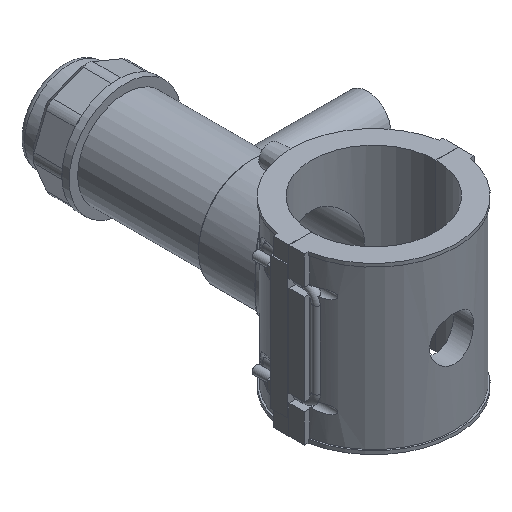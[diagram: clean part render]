
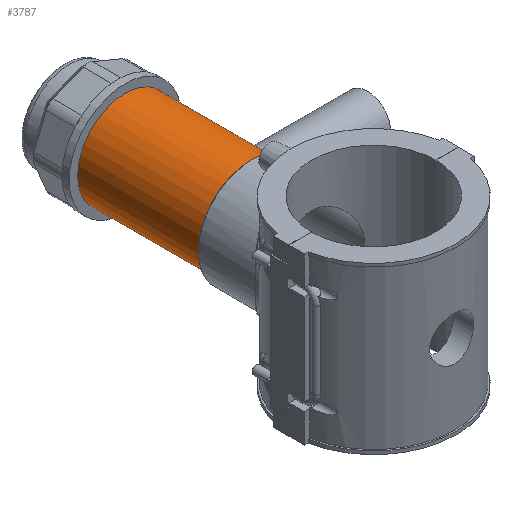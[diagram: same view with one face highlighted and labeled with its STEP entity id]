
A CAD part, isometric view. The second image highlights one B-rep face of the part: STEP entity #3787.
In plain terms, the highlighted cylindrical face has radius 33.928 mm (diameter 67.856 mm), a full revolution.
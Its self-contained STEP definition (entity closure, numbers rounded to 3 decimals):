
#53=FACE_BOUND('',#560,.T.);
#82=B_SPLINE_CURVE_WITH_KNOTS('',3,(#5603,#5604,#5605,#5606,#5607,#5608,
#5609,#5610,#5611,#5612,#5613,#5614,#5615,#5616,#5617,#5618),
 .UNSPECIFIED.,.F.,.F.,(4,2,2,2,2,2,2,4),(0.,0.32,0.64,
1.281,1.6,1.919,2.239,2.558),
 .UNSPECIFIED.);
#83=B_SPLINE_CURVE_WITH_KNOTS('',3,(#5619,#5620,#5621,#5622,#5623,#5624,
#5625,#5626,#5627,#5628,#5629,#5630,#5631,#5632,#5633,#5634,#5635,#5636,
#5637,#5638,#5639,#5640,#5641,#5642,#5643,#5644,#5645,#5646,#5647,#5648,
#5649,#5650,#5651,#5652,#5653,#5654,#5655,#5656,#5657,#5658,#5659,#5660,
#5661,#5662),.UNSPECIFIED.,.F.,.F.,(4,2,2,2,2,2,2,2,2,2,2,2,2,2,2,2,2,2,
2,2,2,4),(2.558,2.877,3.197,3.516,
3.835,4.475,4.796,5.116,5.436,
5.756,6.396,6.716,7.035,7.354,
7.674,7.993,8.312,8.632,8.951,
9.591,9.911,10.232),.UNSPECIFIED.);
#344=FACE_OUTER_BOUND('',#559,.T.);
#559=EDGE_LOOP('',(#2788,#2789,#2790,#2791,#2792,#2793));
#560=EDGE_LOOP('',(#2794,#2795));
#779=CIRCLE('',#4052,33.928);
#780=CIRCLE('',#4053,33.928);
#793=CIRCLE('',#4080,33.928);
#794=CIRCLE('',#4081,33.928);
#956=LINE('',#5912,#1297);
#1297=VECTOR('',#4630,33.928);
#1582=VERTEX_POINT('',#5600);
#1583=VERTEX_POINT('',#5602);
#1645=VERTEX_POINT('',#5853);
#1646=VERTEX_POINT('',#5854);
#1660=VERTEX_POINT('',#5908);
#1661=VERTEX_POINT('',#5909);
#1960=EDGE_CURVE('',#1583,#1582,#82,.T.);
#1961=EDGE_CURVE('',#1582,#1583,#83,.T.);
#2056=EDGE_CURVE('',#1645,#1646,#779,.T.);
#2057=EDGE_CURVE('',#1646,#1645,#780,.T.);
#2082=EDGE_CURVE('',#1660,#1661,#793,.T.);
#2083=EDGE_CURVE('',#1661,#1660,#794,.T.);
#2084=EDGE_CURVE('',#1661,#1646,#956,.T.);
#2788=ORIENTED_EDGE('',*,*,#2082,.F.);
#2789=ORIENTED_EDGE('',*,*,#2083,.F.);
#2790=ORIENTED_EDGE('',*,*,#2084,.T.);
#2791=ORIENTED_EDGE('',*,*,#2057,.T.);
#2792=ORIENTED_EDGE('',*,*,#2056,.T.);
#2793=ORIENTED_EDGE('',*,*,#2084,.F.);
#2794=ORIENTED_EDGE('',*,*,#1960,.T.);
#2795=ORIENTED_EDGE('',*,*,#1961,.T.);
#3691=CYLINDRICAL_SURFACE('',#4079,33.928);
#3787=ADVANCED_FACE('',(#344,#53),#3691,.T.);
#4052=AXIS2_PLACEMENT_3D('',#5855,#4558,#4559);
#4053=AXIS2_PLACEMENT_3D('',#5856,#4560,#4561);
#4079=AXIS2_PLACEMENT_3D('',#5907,#4624,#4625);
#4080=AXIS2_PLACEMENT_3D('',#5910,#4626,#4627);
#4081=AXIS2_PLACEMENT_3D('',#5911,#4628,#4629);
#4558=DIRECTION('center_axis',(0.,1.,0.));
#4559=DIRECTION('ref_axis',(1.,0.,0.));
#4560=DIRECTION('center_axis',(0.,1.,0.));
#4561=DIRECTION('ref_axis',(1.,0.,0.));
#4624=DIRECTION('center_axis',(0.,1.,0.));
#4625=DIRECTION('ref_axis',(0.,0.,1.));
#4626=DIRECTION('center_axis',(0.,1.,0.));
#4627=DIRECTION('ref_axis',(1.,0.,0.));
#4628=DIRECTION('center_axis',(0.,1.,0.));
#4629=DIRECTION('ref_axis',(1.,0.,0.));
#4630=DIRECTION('',(0.,-1.,0.));
#5600=CARTESIAN_POINT('',(33.928,92.724,0.));
#5602=CARTESIAN_POINT('',(29.561,109.374,-16.65));
#5603=CARTESIAN_POINT('Ctrl Pts',(29.561,109.374,-16.65));
#5604=CARTESIAN_POINT('Ctrl Pts',(29.561,108.307,-16.65));
#5605=CARTESIAN_POINT('Ctrl Pts',(29.621,107.211,-16.546));
#5606=CARTESIAN_POINT('Ctrl Pts',(29.857,105.044,-16.115));
#5607=CARTESIAN_POINT('Ctrl Pts',(30.034,103.973,-15.789));
#5608=CARTESIAN_POINT('Ctrl Pts',(30.685,100.908,-14.507));
#5609=CARTESIAN_POINT('Ctrl Pts',(31.279,99.061,-13.233));
#5610=CARTESIAN_POINT('Ctrl Pts',(32.089,96.873,-11.045));
#5611=CARTESIAN_POINT('Ctrl Pts',(32.365,96.186,-10.221));
#5612=CARTESIAN_POINT('Ctrl Pts',(32.879,94.97,-8.422));
#5613=CARTESIAN_POINT('Ctrl Pts',(33.117,94.44,-7.445));
#5614=CARTESIAN_POINT('Ctrl Pts',(33.512,93.585,-5.399));
#5615=CARTESIAN_POINT('Ctrl Pts',(33.668,93.258,-4.327));
#5616=CARTESIAN_POINT('Ctrl Pts',(33.876,92.828,-2.16));
#5617=CARTESIAN_POINT('Ctrl Pts',(33.928,92.724,-1.064));
#5618=CARTESIAN_POINT('Ctrl Pts',(33.928,92.724,0.));
#5619=CARTESIAN_POINT('Ctrl Pts',(33.928,92.724,0.));
#5620=CARTESIAN_POINT('Ctrl Pts',(33.928,92.724,1.064));
#5621=CARTESIAN_POINT('Ctrl Pts',(33.876,92.828,2.16));
#5622=CARTESIAN_POINT('Ctrl Pts',(33.668,93.258,4.327));
#5623=CARTESIAN_POINT('Ctrl Pts',(33.512,93.585,5.399));
#5624=CARTESIAN_POINT('Ctrl Pts',(33.117,94.44,7.445));
#5625=CARTESIAN_POINT('Ctrl Pts',(32.879,94.97,8.422));
#5626=CARTESIAN_POINT('Ctrl Pts',(32.365,96.186,10.221));
#5627=CARTESIAN_POINT('Ctrl Pts',(32.089,96.873,11.045));
#5628=CARTESIAN_POINT('Ctrl Pts',(31.279,99.061,13.233));
#5629=CARTESIAN_POINT('Ctrl Pts',(30.685,100.908,14.507));
#5630=CARTESIAN_POINT('Ctrl Pts',(30.034,103.973,15.789));
#5631=CARTESIAN_POINT('Ctrl Pts',(29.857,105.044,16.115));
#5632=CARTESIAN_POINT('Ctrl Pts',(29.621,107.211,16.546));
#5633=CARTESIAN_POINT('Ctrl Pts',(29.561,108.307,16.65));
#5634=CARTESIAN_POINT('Ctrl Pts',(29.561,110.441,16.65));
#5635=CARTESIAN_POINT('Ctrl Pts',(29.621,111.537,16.546));
#5636=CARTESIAN_POINT('Ctrl Pts',(29.857,113.704,16.115));
#5637=CARTESIAN_POINT('Ctrl Pts',(30.034,114.775,15.789));
#5638=CARTESIAN_POINT('Ctrl Pts',(30.685,117.84,14.507));
#5639=CARTESIAN_POINT('Ctrl Pts',(31.279,119.687,13.233));
#5640=CARTESIAN_POINT('Ctrl Pts',(32.089,121.875,11.045));
#5641=CARTESIAN_POINT('Ctrl Pts',(32.365,122.562,10.221));
#5642=CARTESIAN_POINT('Ctrl Pts',(32.879,123.778,8.422));
#5643=CARTESIAN_POINT('Ctrl Pts',(33.117,124.308,7.445));
#5644=CARTESIAN_POINT('Ctrl Pts',(33.512,125.163,5.399));
#5645=CARTESIAN_POINT('Ctrl Pts',(33.668,125.49,4.327));
#5646=CARTESIAN_POINT('Ctrl Pts',(33.876,125.92,2.16));
#5647=CARTESIAN_POINT('Ctrl Pts',(33.928,126.024,1.064));
#5648=CARTESIAN_POINT('Ctrl Pts',(33.928,126.024,-1.064));
#5649=CARTESIAN_POINT('Ctrl Pts',(33.876,125.92,-2.16));
#5650=CARTESIAN_POINT('Ctrl Pts',(33.668,125.49,-4.327));
#5651=CARTESIAN_POINT('Ctrl Pts',(33.512,125.163,-5.399));
#5652=CARTESIAN_POINT('Ctrl Pts',(33.117,124.308,-7.445));
#5653=CARTESIAN_POINT('Ctrl Pts',(32.879,123.778,-8.422));
#5654=CARTESIAN_POINT('Ctrl Pts',(32.365,122.562,-10.221));
#5655=CARTESIAN_POINT('Ctrl Pts',(32.089,121.875,-11.045));
#5656=CARTESIAN_POINT('Ctrl Pts',(31.279,119.687,-13.233));
#5657=CARTESIAN_POINT('Ctrl Pts',(30.685,117.84,-14.507));
#5658=CARTESIAN_POINT('Ctrl Pts',(30.034,114.775,-15.789));
#5659=CARTESIAN_POINT('Ctrl Pts',(29.857,113.704,-16.115));
#5660=CARTESIAN_POINT('Ctrl Pts',(29.621,111.537,-16.546));
#5661=CARTESIAN_POINT('Ctrl Pts',(29.561,110.441,-16.65));
#5662=CARTESIAN_POINT('Ctrl Pts',(29.561,109.374,-16.65));
#5853=CARTESIAN_POINT('',(0.,87.887,33.928));
#5854=CARTESIAN_POINT('',(0.,87.887,-33.928));
#5855=CARTESIAN_POINT('Origin',(0.,87.887,0.));
#5856=CARTESIAN_POINT('Origin',(0.,87.887,0.));
#5907=CARTESIAN_POINT('Origin',(0.,132.508,0.));
#5908=CARTESIAN_POINT('',(0.,177.129,33.928));
#5909=CARTESIAN_POINT('',(0.,177.129,-33.928));
#5910=CARTESIAN_POINT('Origin',(0.,177.129,0.));
#5911=CARTESIAN_POINT('Origin',(0.,177.129,0.));
#5912=CARTESIAN_POINT('',(0.,132.508,-33.928));
